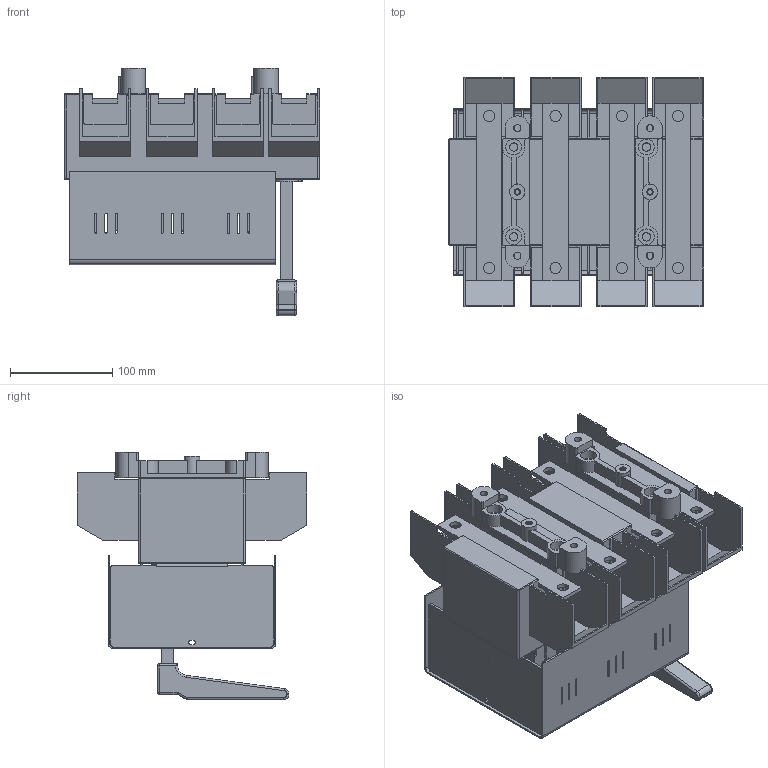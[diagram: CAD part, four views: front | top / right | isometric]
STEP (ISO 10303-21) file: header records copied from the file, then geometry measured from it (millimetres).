
FILE_DESCRIPTION(/* description */ (''),/* implementation_level */ '2;1');
FILE_NAME(/* name */ 'RAB 1 P3 N-R z oslona zaciskow.stp',/* time_stamp */ '2021-08-19T12:02:20+02:00',/* author */ (''),/* organization */ (''),/* preprocessor_version */ 'ST-DEVELOPER v18.1',/* originating_system */ 'SIEMENS PLM Software NX 1965',/* authorisation */ '');
FILE_SCHEMA (('AUTOMOTIVE_DESIGN { 1 0 10303 214 3 1 1 1 }'));
Length unit declared in the file: millimetre
Products named in the file (1): RAB 1 P3 N-R z oslona zaciskow
Bounding box: 250 x 225 x 242.3 mm (x, y, z)
Volume: 2641449.8 mm3; surface area: 612845.6 mm2
Topology: 1 solids, 1 shells, 1242 faces, 3447 edges, 2243 vertices
Faces by surface type: plane 847, cylinder 373, bspline 8, torus 8, sphere 6
Full cylindrical faces by diameter (mm): 4.8 x2, 6.2 x2, 7 x4, 8.2 x4, 11 x8, 14 x4, 15 x2, 15.5 x4
Entity records: 39647 total; most frequent: CARTESIAN_POINT 7071, ORIENTED_EDGE 6814, DIRECTION 6647, EDGE_CURVE 3407, LINE 2621, VECTOR 2621, VERTEX_POINT 2236, AXIS2_PLACEMENT_3D 2013
